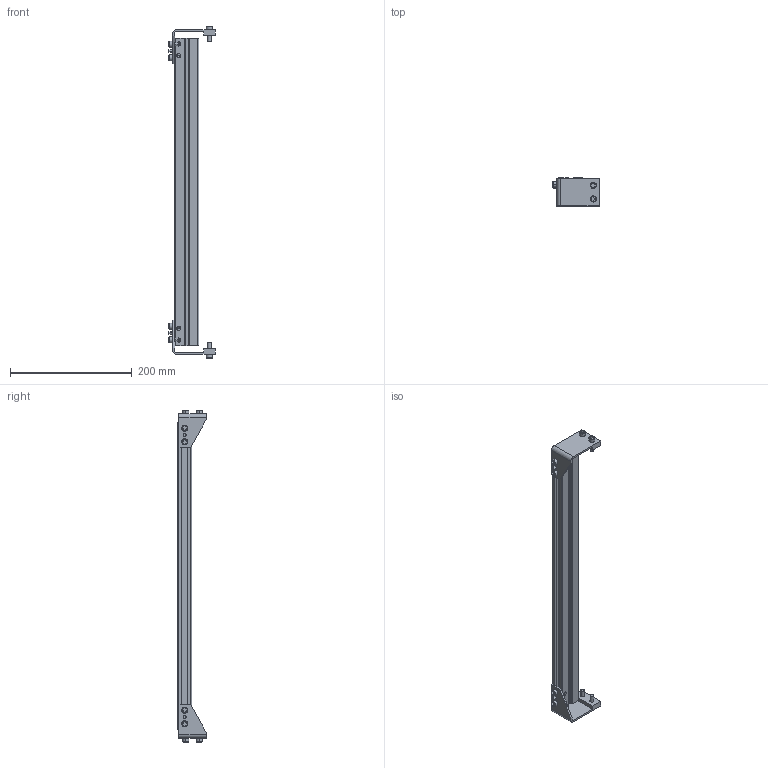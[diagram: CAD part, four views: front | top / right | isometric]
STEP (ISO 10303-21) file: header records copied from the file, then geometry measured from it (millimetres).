
FILE_DESCRIPTION((''),'2;1');
FILE_NAME('3076WWM_2_ASM','2023-03-15T',('jenni.wallner'),(''),'PRO/ENGINEER BY PARAMETRIC TECHNOLOGY CORPORATION, 2012420','PRO/ENGINEER BY PARAMETRIC TECHNOLOGY CORPORATION, 2012420','');
FILE_SCHEMA(('CONFIG_CONTROL_DESIGN'));
Length unit declared in the file: inch
Products named in the file (4): 677721_1; BRACKET_L; BRACKET_R; 3076WWM_2_ASM
Assembly tree (3 placements, depth 2):
  3076WWM_2_ASM
    677721_1
    BRACKET_L
    BRACKET_R
Bounding box: 76.2 x 46.13 x 544.82 mm (x, y, z)
Volume: 250143.1 mm3; surface area: 151386.9 mm2
Topology: 3 solids, 3 shells, 296 faces, 730 edges, 476 vertices
Faces by surface type: plane 188, cylinder 76, cone 32
Entity records: 8834 total; most frequent: DIRECTION 1520, CARTESIAN_POINT 1509, ORIENTED_EDGE 1460, EDGE_CURVE 730, VECTOR 546, LINE 546, AXIS2_PLACEMENT_3D 487, VERTEX_POINT 476
